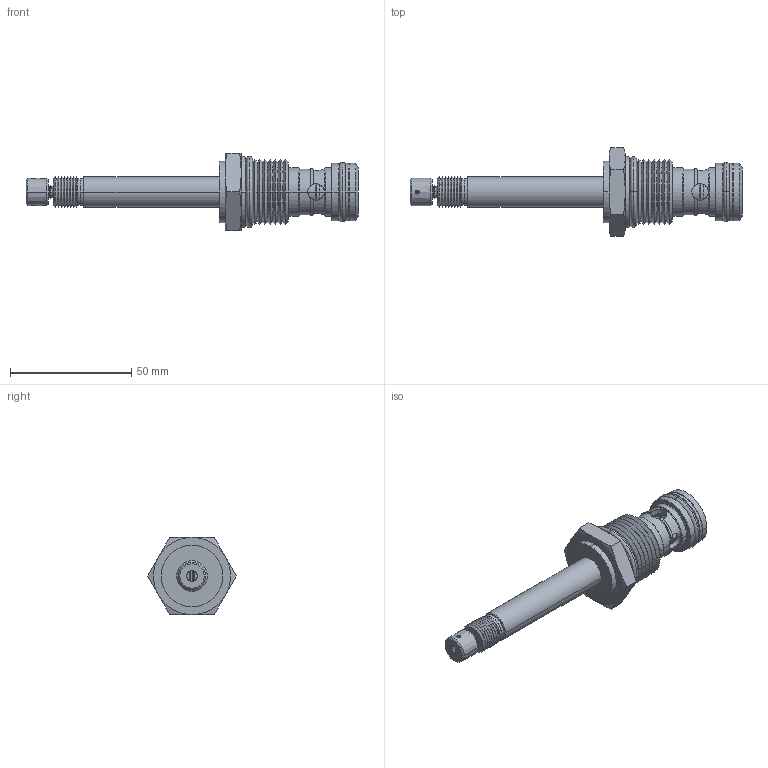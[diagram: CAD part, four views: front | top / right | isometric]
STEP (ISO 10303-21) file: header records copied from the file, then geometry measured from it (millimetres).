
FILE_DESCRIPTION((''),'2;1');
FILE_NAME('U:\Solid model CD\Solid model full\Solenoid\STEP\TTS2C0K-3D Full.stp','2008-06-23T13:05:34',('Dan'),(''),'Autodesk Inventor 9','Autodesk Inventor 9','');
FILE_SCHEMA(('AUTOMOTIVE_DESIGN { 1 0 10303 214 1 1 1 1 }'));
Length unit declared in the file: inch
Products named in the file (7): TTS2C0K-3D Full; TTS2C0K-3D Full1; TTS2C0K-3D Full2; TTS2C0K-3D Full3; TTS2C0K-3D Full4; TTS2C0K-3D Full5; TTS2C0K-3D Full6
Assembly tree (6 placements, depth 2):
  TTS2C0K-3D Full
    TTS2C0K-3D Full1
    TTS2C0K-3D Full2
    TTS2C0K-3D Full3
    TTS2C0K-3D Full4
    TTS2C0K-3D Full5
    TTS2C0K-3D Full6
Bounding box: 136.8 x 36.66 x 31.75 mm (x, y, z)
Volume: 34057.8 mm3; surface area: 14227.2 mm2
Topology: 6 solids, 6 shells, 346 faces, 803 edges, 479 vertices
Faces by surface type: bspline 346
Entity records: 14946 total; most frequent: CARTESIAN_POINT 8239, ORIENTED_EDGE 1606, DIRECTION 1088, EDGE_CURVE 803, VERTEX_POINT 479, AXIS2_PLACEMENT_3D 414, CIRCLE 401, EDGE_LOOP 376
